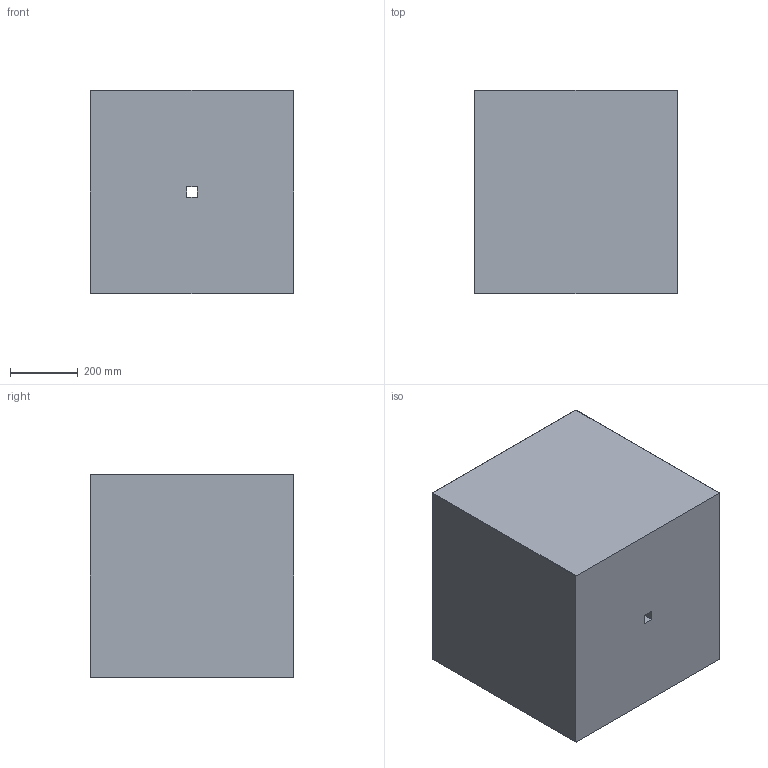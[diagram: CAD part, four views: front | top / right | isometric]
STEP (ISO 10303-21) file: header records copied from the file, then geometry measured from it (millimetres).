
FILE_DESCRIPTION(/* description */ (''),/* implementation_level */ '2;1');
FILE_NAME(/* name */ 'C:\Mac\Home\Desktop\btnv\inventor\cubo606060\donica betonowa Cubo 60x60x60cm.stp',/* time_stamp */ '2025-11-10T22:21:26+01:00',/* author */ ('dwasik'),/* organization */ (''),/* preprocessor_version */ 'ST-DEVELOPER v15.6',/* originating_system */ 'Autodesk Inventor 2015',/* authorisation */ '');
FILE_SCHEMA (('AUTOMOTIVE_DESIGN { 1 0 10303 214 3 1 1 }'));
Length unit declared in the file: millimetre
Products named in the file (1): Part1
Bounding box: 600 x 600 x 600 mm (x, y, z)
Volume: 64538970.6 mm3; surface area: 3325738.4 mm2
Topology: 1 solids, 1 shells, 27 faces, 60 edges, 36 vertices
Faces by surface type: plane 15, cylinder 8, sphere 4
Entity records: 762 total; most frequent: DIRECTION 132, CARTESIAN_POINT 124, ORIENTED_EDGE 120, EDGE_CURVE 60, LINE 44, VECTOR 44, AXIS2_PLACEMENT_3D 44, VERTEX_POINT 36
